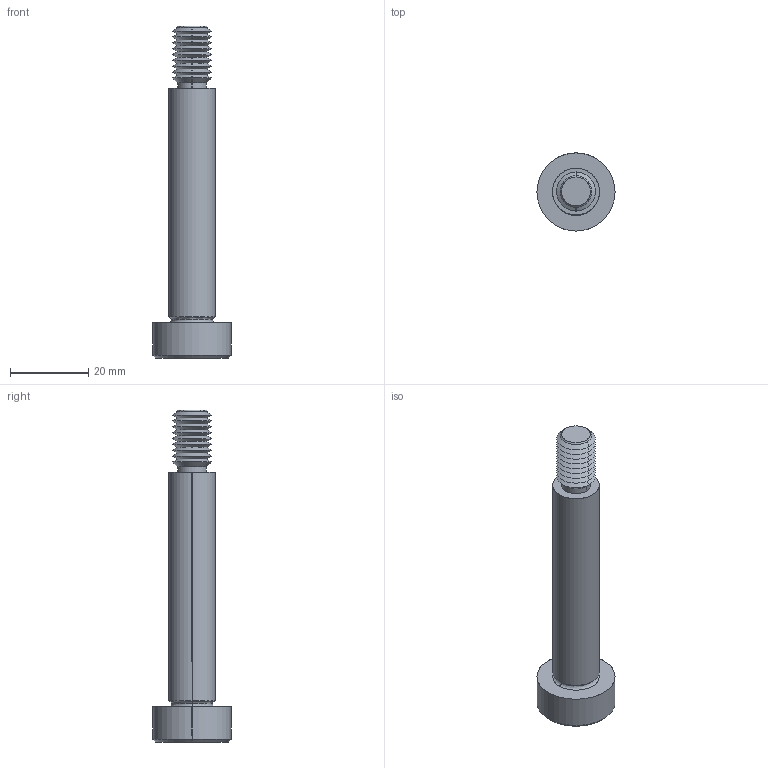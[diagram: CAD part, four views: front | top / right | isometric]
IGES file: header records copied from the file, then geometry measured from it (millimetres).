
Start section: SolidWorks IGES file using analytic representation for surfaces
Global section: file name: C:\Users\IanO\Documents\Temp Folder\GENERAL\SCREW REVISION\P0130_v2\P0130.T5_v2_20220106_IGES\P0130.120-060-T5.igs; native system: SolidWorks 2019; preprocessor: SolidWorks 2019; author: IanO; date: 220106.225000; units: millimetre
Bounding box: 20 x 20 x 85 mm (x, y, z)
Surface area: 4379.2 mm2 (no closed solid volume)
Topology: 0 solids, 0 shells, 76 faces, 564 edges, 562 vertices
Faces by surface type: revolution 56, bspline 20
